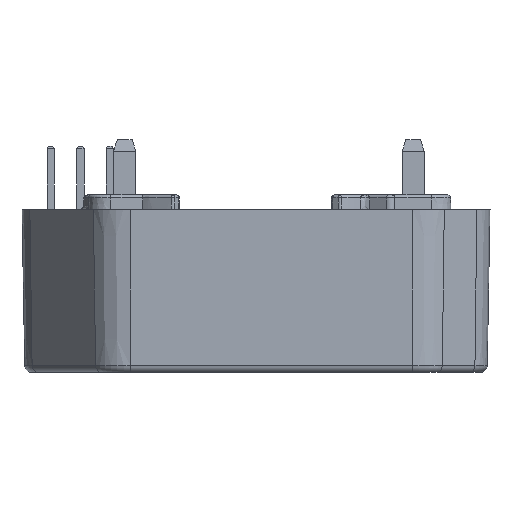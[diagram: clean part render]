
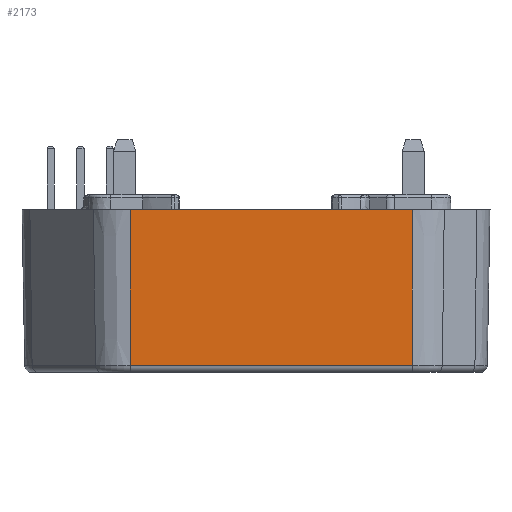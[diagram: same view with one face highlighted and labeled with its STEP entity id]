
A CAD part, front view. The second image highlights one B-rep face of the part: STEP entity #2173.
In plain terms, the highlighted planar face has unit normal (0, -1, -0.018).
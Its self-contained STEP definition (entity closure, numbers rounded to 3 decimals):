
#2173=ADVANCED_FACE('',(#3528),#2958,.F.);
#2958=PLANE('',#19384);
#3528=FACE_OUTER_BOUND('',#4483,.T.);
#4483=EDGE_LOOP('',(#7800,#7801,#7802,#7803));
#7800=ORIENTED_EDGE('',*,*,#14568,.F.);
#7801=ORIENTED_EDGE('',*,*,#14051,.F.);
#7802=ORIENTED_EDGE('',*,*,#14567,.F.);
#7803=ORIENTED_EDGE('',*,*,#14554,.F.);
#11969=VERTEX_POINT('',#30703);
#11970=VERTEX_POINT('',#30705);
#12300=VERTEX_POINT('',#32924);
#12301=VERTEX_POINT('',#32928);
#14051=EDGE_CURVE('',#11969,#11970,#16352,.T.);
#14554=EDGE_CURVE('',#12301,#12300,#16557,.T.);
#14567=EDGE_CURVE('',#12300,#11969,#16565,.T.);
#14568=EDGE_CURVE('',#11970,#12301,#16566,.T.);
#16352=LINE('',#30704,#17897);
#16557=LINE('',#32929,#18102);
#16565=LINE('',#32956,#18110);
#16566=LINE('',#32958,#18111);
#17897=VECTOR('',#21295,1.);
#18102=VECTOR('',#21988,1.);
#18110=VECTOR('',#22030,1.);
#18111=VECTOR('',#22033,1.);
#19384=AXIS2_PLACEMENT_3D('',#32959,#22034,#22035);
#21295=DIRECTION('',(1.,0.,0.));
#21988=DIRECTION('',(-1.,0.,0.));
#22030=DIRECTION('',(0.,-0.017,1.));
#22033=DIRECTION('',(0.,0.017,-1.));
#22034=DIRECTION('',(0.,1.,0.017));
#22035=DIRECTION('',(0.,0.017,-1.));
#30703=CARTESIAN_POINT('',(-26.094,10.373,31.696));
#30704=CARTESIAN_POINT('',(-17.603,10.373,31.696));
#30705=CARTESIAN_POINT('',(-7.023,10.373,31.696));
#32924=CARTESIAN_POINT('',(-26.094,10.557,21.187));
#32928=CARTESIAN_POINT('',(-7.023,10.557,21.187));
#32929=CARTESIAN_POINT('',(-33.478,10.557,21.187));
#32956=CARTESIAN_POINT('',(-26.094,-8699.502,499020.096));
#32958=CARTESIAN_POINT('',(-7.023,10.41,29.596));
#32959=CARTESIAN_POINT('',(-17.603,10.41,29.596));
